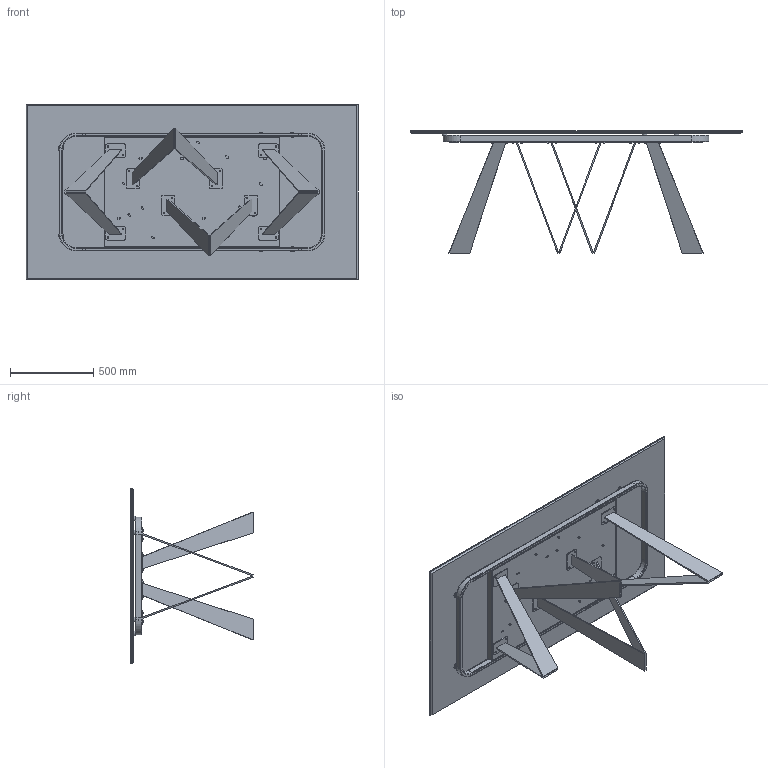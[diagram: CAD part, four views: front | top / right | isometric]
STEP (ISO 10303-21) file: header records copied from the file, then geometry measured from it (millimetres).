
FILE_DESCRIPTION (( 'STEP AP203' ), '1' );
FILE_NAME ('NO21C_Noa_200x106x75h_Ceramic Rectangular.STEP', '2024-08-07T14:30:21', ( '' ), ( '' ), 'SwSTEP 2.0', 'SolidWorks 2022', '' );
FILE_SCHEMA (( 'CONFIG_CONTROL_DESIGN' ));
Length unit declared in the file: millimetre
Products named in the file (14): NO21C_Noa_200x106x75h_Ceramic Rectangular; NOA000001GMB-00-Piastra Principale gamba NOA_Piatto DX; NOA000001PTRS-00-Piastra rettangoalre con fori; MAPPA; rondella M8_8X16; M8xXXmm_M8x16mm; K2XCMXX-00-Piani Rettangolari in ceramica_2000 x 1060; NOA000000-00-NOA BASE GREZZA; TTAV06_01-01-STRUTTURA X TAVOLI PLAI ONDA NOA 240_Default<A macchina>; TTAV06-01-TELAIO X TAVOLI PLAI ONDA NOA 240cm_TTAV06; 434070-00-PIEDINO TPV GOMMA NERO D. 30x8max18; Assieme NOA var 3_noa 200-240; TTAV06_02-01-VASSOIO TAVOLI PLAI ONDA NOA 240; NOA000001GMB-00-Piastra Principale gamba NOA_Piatto SX
Assembly tree (51 placements, depth 4):
  NO21C_Noa_200x106x75h_Ceramic Rectangular
    K2XCMXX-00-Piani Rettangolari in ceramica_2000 x 1060
    Assieme NOA var 3_noa 200-240
      NOA000000-00-NOA BASE GREZZA  x4
        NOA000001GMB-00-Piastra Principale gamba NOA_Piatto SX
        NOA000001GMB-00-Piastra Principale gamba NOA_Piatto DX
        NOA000001PTRS-00-Piastra rettangoalre con fori
      TTAV06-01-TELAIO X TAVOLI PLAI ONDA NOA 240cm_TTAV06
        TTAV06_02-01-VASSOIO TAVOLI PLAI ONDA NOA 240
        TTAV06_01-01-STRUTTURA X TAVOLI PLAI ONDA NOA 240_Default<A macchina>
    M8xXXmm_M8x16mm  x16
    rondella M8_8X16  x16
    434070-00-PIEDINO TPV GOMMA NERO D. 30x8max18  x6
  MAPPA
Bounding box: 2000 x 735.8 x 1060 mm (x, y, z)
Volume: 42892429.6 mm3; surface area: 12592341.6 mm2
Topology: 71 solids, 71 shells, 1490 faces, 3408 edges, 2044 vertices
Faces by surface type: plane 598, cylinder 388, cone 256, torus 248
Entity records: 20614 total; most frequent: DIRECTION 3353, CARTESIAN_POINT 3149, ORIENTED_EDGE 2964, EDGE_CURVE 1482, AXIS2_PLACEMENT_3D 1250, VERTEX_POINT 928, LINE 853, VECTOR 853
